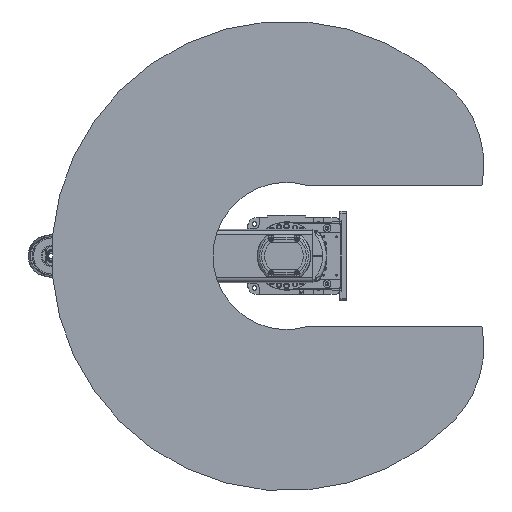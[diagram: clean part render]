
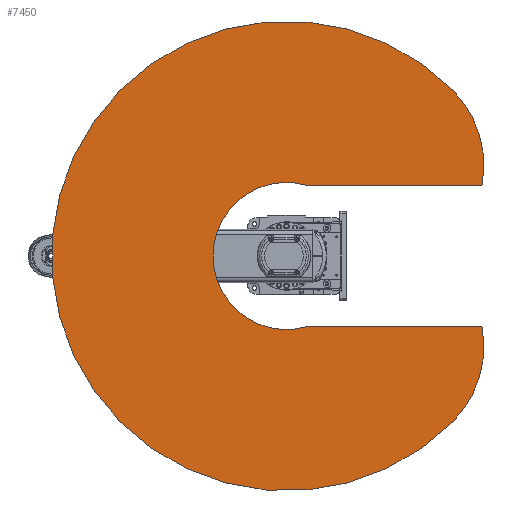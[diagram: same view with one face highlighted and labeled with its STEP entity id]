
A CAD part, front view. The second image highlights one B-rep face of the part: STEP entity #7450.
In plain terms, the highlighted planar face has unit normal (0, -1, 0).
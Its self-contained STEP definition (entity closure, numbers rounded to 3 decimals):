
#7450 = ADVANCED_FACE( '', ( #16843 ), #16844, .F. );
#16843 = FACE_OUTER_BOUND( '', #28616, .T. );
#16844 = PLANE( '', #28617 );
#28616 = EDGE_LOOP( '', ( #49364, #49365, #49366, #49367, #49368, #49369 ) );
#28617 = AXIS2_PLACEMENT_3D( '', #49370, #49371, #49372 );
#49364 = ORIENTED_EDGE( '', *, *, #67651, .T. );
#49365 = ORIENTED_EDGE( '', *, *, #60129, .F. );
#49366 = ORIENTED_EDGE( '', *, *, #67652, .F. );
#49367 = ORIENTED_EDGE( '', *, *, #64119, .F. );
#49368 = ORIENTED_EDGE( '', *, *, #67653, .T. );
#49369 = ORIENTED_EDGE( '', *, *, #62856, .T. );
#49370 = CARTESIAN_POINT( '', ( 106.066, 0., 106.066 ) );
#49371 = DIRECTION( '', ( 0., 1., 0. ) );
#49372 = DIRECTION( '', ( 0., 0., 1. ) );
#60129 = EDGE_CURVE( '', #70284, #70280, #70286, .T. );
#62856 = EDGE_CURVE( '', #74998, #74996, #74999, .T. );
#64119 = EDGE_CURVE( '', #77010, #77012, #77013, .T. );
#67651 = EDGE_CURVE( '', #74996, #70280, #82097, .T. );
#67652 = EDGE_CURVE( '', #77012, #70284, #82098, .T. );
#67653 = EDGE_CURVE( '', #77010, #74998, #82099, .T. );
#70280 = VERTEX_POINT( '', #85235 );
#70284 = VERTEX_POINT( '', #85240 );
#70286 = CIRCLE( '', #85243, 250. );
#74996 = VERTEX_POINT( '', #93126 );
#74998 = VERTEX_POINT( '', #93129 );
#74999 = CIRCLE( '', #93130, 172.13 );
#77010 = VERTEX_POINT( '', #96569 );
#77012 = VERTEX_POINT( '', #96572 );
#77013 = CIRCLE( '', #96573, 250. );
#82097 = LINE( '', #105360, #105361 );
#82098 = CIRCLE( '', #105362, 550. );
#82099 = LINE( '', #105363, #105364 );
#85235 = CARTESIAN_POINT( '', ( -165., 0., 457.649 ) );
#85240 = CARTESIAN_POINT( '', ( -388.909, 0., 388.909 ) );
#85243 = AXIS2_PLACEMENT_3D( '', #110039, #110040, #110041 );
#93126 = CARTESIAN_POINT( '', ( -165., 0., 49.028 ) );
#93129 = CARTESIAN_POINT( '', ( 165., 0., 49.028 ) );
#93130 = AXIS2_PLACEMENT_3D( '', #113610, #113611, #113612 );
#96569 = CARTESIAN_POINT( '', ( 165., 0., 457.649 ) );
#96572 = CARTESIAN_POINT( '', ( 388.909, 0., 388.909 ) );
#96573 = AXIS2_PLACEMENT_3D( '', #115207, #115208, #115209 );
#105360 = CARTESIAN_POINT( '', ( -165., 0., 0. ) );
#105361 = VECTOR( '', #119307, 1000. );
#105362 = AXIS2_PLACEMENT_3D( '', #119308, #119309, #119310 );
#105363 = CARTESIAN_POINT( '', ( 165., 0., 500. ) );
#105364 = VECTOR( '', #119311, 1000. );
#110039 = CARTESIAN_POINT( '', ( -212.132, 0., 212.132 ) );
#110040 = DIRECTION( '', ( 0., 1., 0. ) );
#110041 = DIRECTION( '', ( 1., 0., 0. ) );
#113610 = CARTESIAN_POINT( '', ( 0., 0., 0. ) );
#113611 = DIRECTION( '', ( 0., 1., 0. ) );
#113612 = DIRECTION( '', ( 1., 0., 0. ) );
#115207 = CARTESIAN_POINT( '', ( 212.132, 0., 212.132 ) );
#115208 = DIRECTION( '', ( 0., 1., 0. ) );
#115209 = DIRECTION( '', ( 1., 0., 0. ) );
#119307 = DIRECTION( '', ( 0., 0., 1. ) );
#119308 = CARTESIAN_POINT( '', ( 0., 0., 0. ) );
#119309 = DIRECTION( '', ( 0., 1., 0. ) );
#119310 = DIRECTION( '', ( 1., 0., 0. ) );
#119311 = DIRECTION( '', ( 0., 0., -1. ) );
